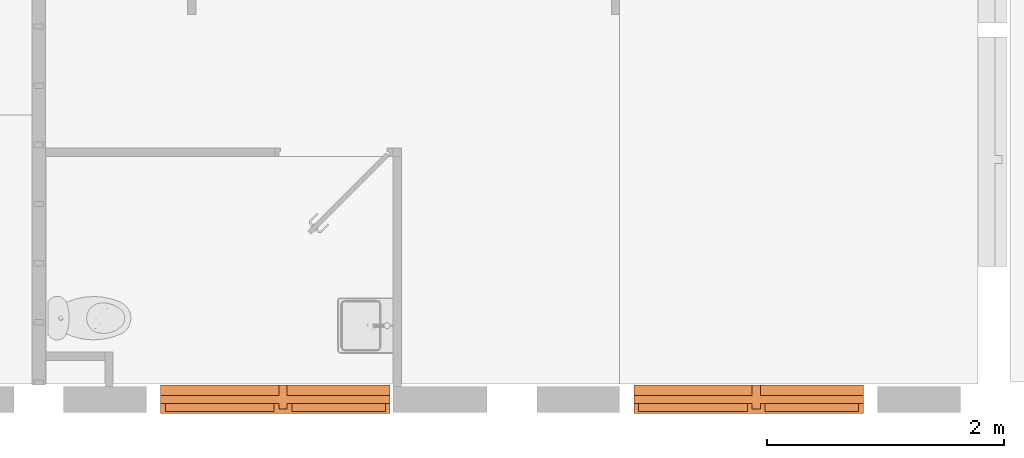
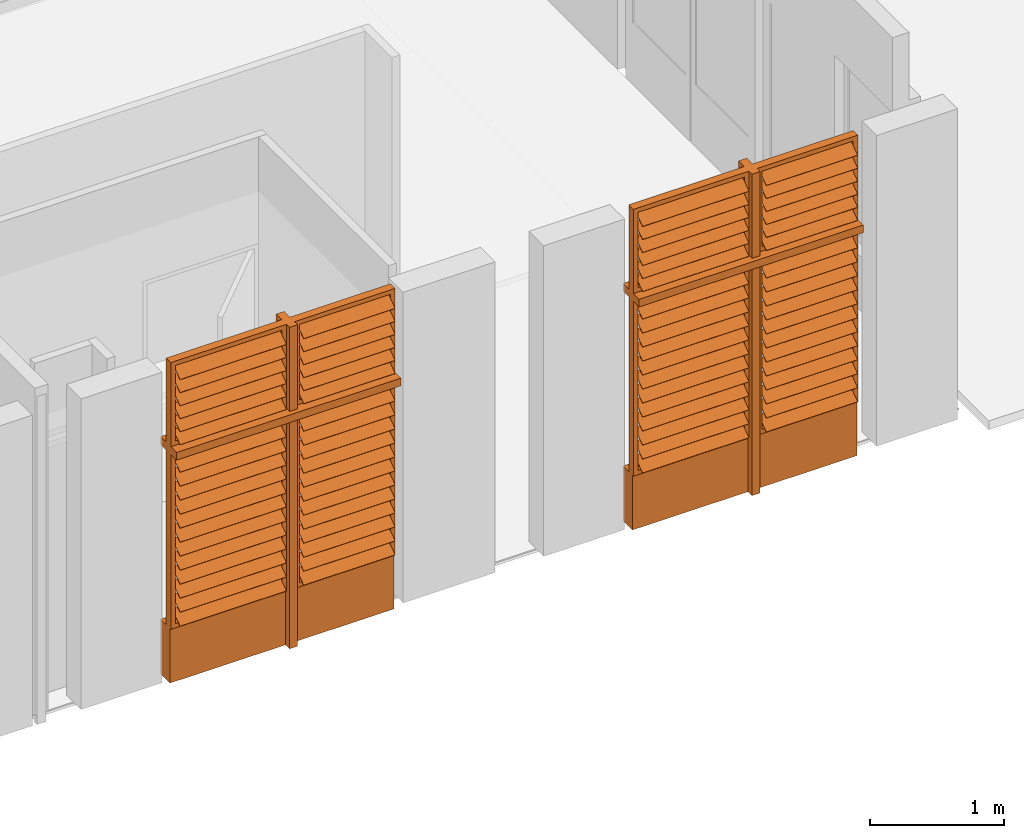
# One storey, part 12 of 15: 2 proxies.
"""IFC2X3 building model written with IfcOpenShell, lengths in metres."""

from ifc_helpers import new_model, entity, si_unit, converted_unit, derived_unit, direction, frame, frame_2d, origin, origin_2d_with_axis, place, context, subcontext, project, spatial, polyline, rectangle, outline, extrude, source, transform, mapped, material, material_list, type_object, type_shapes, element, save


model = new_model("IFC2X3")

# Units and contexts
model_context = context("Model", 3, precision=1e-05, world=origin(), true_north=direction((6.12303176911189e-17, 1.0)))
body_context = subcontext(model_context, "Body", "Model", "MODEL_VIEW")
ifc_project = project(units=[si_unit("LENGTHUNIT", "METRE"), si_unit("AREAUNIT", "SQUARE_METRE"), si_unit("VOLUMEUNIT", "CUBIC_METRE"), converted_unit("PLANEANGLEUNIT", "DEGREE", entity("IfcRatioMeasure", 0.0174532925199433), si_unit("PLANEANGLEUNIT", "RADIAN"), dimensions=[0, 0, 0, 0, 0, 0, 0]), si_unit("MASSUNIT", "GRAM", prefix="KILO"), derived_unit("MASSDENSITYUNIT", [(si_unit("MASSUNIT", "GRAM", prefix="KILO"), 1), (si_unit("LENGTHUNIT", "METRE"), -3)]), si_unit("TIMEUNIT", "SECOND"), si_unit("FREQUENCYUNIT", "HERTZ"), si_unit("THERMODYNAMICTEMPERATUREUNIT", "DEGREE_CELSIUS"), derived_unit("THERMALTRANSMITTANCEUNIT", [(si_unit("MASSUNIT", "GRAM", prefix="KILO"), 1), (si_unit("THERMODYNAMICTEMPERATUREUNIT", "KELVIN"), -1), (si_unit("TIMEUNIT", "SECOND"), -3)]), derived_unit("VOLUMETRICFLOWRATEUNIT", [(si_unit("LENGTHUNIT", "METRE"), 3), (si_unit("TIMEUNIT", "SECOND"), -1)]), si_unit("ELECTRICCURRENTUNIT", "AMPERE"), si_unit("ELECTRICVOLTAGEUNIT", "VOLT"), si_unit("POWERUNIT", "WATT"), si_unit("FORCEUNIT", "NEWTON", prefix="KILO"), si_unit("ILLUMINANCEUNIT", "LUX"), si_unit("LUMINOUSFLUXUNIT", "LUMEN"), si_unit("LUMINOUSINTENSITYUNIT", "CANDELA"), derived_unit("USERDEFINED", [(si_unit("MASSUNIT", "GRAM", prefix="KILO"), -1), (si_unit("LENGTHUNIT", "METRE"), -2), (si_unit("TIMEUNIT", "SECOND"), 3), (si_unit("LUMINOUSFLUXUNIT", "LUMEN"), 1)]), derived_unit("LINEARVELOCITYUNIT", [(si_unit("LENGTHUNIT", "METRE"), 1), (si_unit("TIMEUNIT", "SECOND"), -1)]), si_unit("PRESSUREUNIT", "PASCAL"), derived_unit("USERDEFINED", [(si_unit("LENGTHUNIT", "METRE"), -2), (si_unit("MASSUNIT", "GRAM", prefix="KILO"), 1), (si_unit("TIMEUNIT", "SECOND"), -2)])], contexts=[model_context])

# Site, building, storey
site_placement = place(None, origin())
site = spatial("IfcSite", under=ifc_project, at=site_placement, Name="Surface", CompositionType="ELEMENT")
building_placement = place(site_placement, origin())
building = spatial("IfcBuilding", under=site, at=building_placement, Name="ExPREF", CompositionType="ELEMENT")
storey_placement = place(building_placement, frame((0.0, 0.0, 7.83)))
storey = spatial("IfcBuildingStorey", under=building, at=storey_placement, Name="R+2", CompositionType="ELEMENT", Elevation=7.83)

# Proxies
ifc_material_1 = material(Name="AA-Aluminium")
ifc_material_2 = material(Name="AA-vitrage")
ifc_material_3 = material(Name="AA-bois menuiseries")
ifc_material_list_1 = material_list([ifc_material_1, ifc_material_2, ifc_material_3])
ifc_material_list_2 = material_list([ifc_material_1, ifc_material_2, ifc_material_3])
building_element_proxy_type = type_object("IfcBuildingElementProxyType", Name="R+2 naco + naco", PredefinedType="NOTDEFINED", material=ifc_material_list_2)
shared_shape = source(origin(), body_context, "Body", "SweptSolid", [
    extrude(rectangle(XDim=0.00770243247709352, YDim=0.0205728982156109, at=frame_2d((1.62196645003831e-16, 2.16840434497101e-16), x_axis=(0.0, 1.0))), frame((0.139999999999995, -0.107700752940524, 2.89046018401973), z_axis=(1.0, 0.0, 0.0), x_axis=(0.0, 0.819152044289, 0.573576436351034)), (0.0, 0.0, 1.0), 0.790000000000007),
    extrude(rectangle(XDim=0.00499999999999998, YDim=0.129427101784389, at=origin_2d_with_axis()), frame((0.139999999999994, -0.169165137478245, 2.84748191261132), z_axis=(1.0, 0.0, 0.0), x_axis=(0.0, -0.573576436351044, 0.819152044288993)), (0.0, 0.0, 1.0), 0.790000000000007),
    extrude(rectangle(XDim=0.00770243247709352, YDim=0.0205728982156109, at=frame_2d((1.62196645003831e-16, 2.16840434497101e-16), x_axis=(0.0, 1.0))), frame((-0.930000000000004, -0.107700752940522, 2.89046018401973), z_axis=(1.0, 0.0, 0.0), x_axis=(0.0, 0.819152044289, 0.573576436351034)), (0.0, 0.0, 1.0), 0.920000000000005),
    extrude(rectangle(XDim=0.00499999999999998, YDim=0.129427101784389, at=origin_2d_with_axis()), frame((-0.930000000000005, -0.169165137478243, 2.84748191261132), z_axis=(1.0, 0.0, 0.0), x_axis=(0.0, -0.573576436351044, 0.819152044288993)), (0.0, 0.0, 1.0), 0.920000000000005),
    extrude(rectangle(XDim=0.0077024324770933, YDim=0.0205728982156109, at=frame_2d((1.99493199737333e-17, -1.49619899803e-17), x_axis=(0.0, 1.0))), frame((-0.930000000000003, -0.107700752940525, 2.04446018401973), z_axis=(1.0, 0.0, 0.0), x_axis=(0.0, 0.819152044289, 0.573576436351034)), (0.0, 0.0, 1.0), 0.920000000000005),
    extrude(rectangle(XDim=0.00499999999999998, YDim=0.129427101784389, at=frame_2d((4.11996825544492e-18, 6.93889390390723e-18), x_axis=(1.0, 0.0))), frame((-0.930000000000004, -0.169165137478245, 2.00148191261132), z_axis=(1.0, 0.0, 0.0), x_axis=(0.0, -0.573576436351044, 0.819152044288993)), (0.0, 0.0, 1.0), 0.920000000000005),
    extrude(rectangle(XDim=0.00770243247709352, YDim=0.0205728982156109, at=frame_2d((1.99493199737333e-17, -1.49619899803e-17), x_axis=(0.0, 1.0))), frame((-0.930000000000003, -0.107700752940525, 1.91646018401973), z_axis=(1.0, 0.0, 0.0), x_axis=(0.0, 0.819152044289, 0.573576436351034)), (0.0, 0.0, 1.0), 0.920000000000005),
    extrude(rectangle(XDim=0.00499999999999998, YDim=0.129427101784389, at=frame_2d((4.11996825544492e-18, 6.93889390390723e-18), x_axis=(1.0, 0.0))), frame((-0.930000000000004, -0.169165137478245, 1.87348191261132), z_axis=(1.0, 0.0, 0.0), x_axis=(0.0, -0.573576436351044, 0.819152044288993)), (0.0, 0.0, 1.0), 0.920000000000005),
    extrude(rectangle(XDim=0.00770243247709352, YDim=0.0205728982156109, at=frame_2d((1.99493199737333e-17, -1.49619899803e-17), x_axis=(0.0, 1.0))), frame((-0.930000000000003, -0.107700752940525, 1.78846018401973), z_axis=(1.0, 0.0, 0.0), x_axis=(0.0, 0.819152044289, 0.573576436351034)), (0.0, 0.0, 1.0), 0.920000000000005),
    extrude(rectangle(XDim=0.00499999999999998, YDim=0.129427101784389, at=frame_2d((4.11996825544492e-18, 6.93889390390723e-18), x_axis=(1.0, 0.0))), frame((-0.930000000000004, -0.169165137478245, 1.74548191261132), z_axis=(1.0, 0.0, 0.0), x_axis=(0.0, -0.573576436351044, 0.819152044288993)), (0.0, 0.0, 1.0), 0.920000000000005),
    extrude(rectangle(XDim=0.00770243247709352, YDim=0.0205728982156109, at=frame_2d((1.99493199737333e-17, -1.49619899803e-17), x_axis=(0.0, 1.0))), frame((-0.930000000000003, -0.107700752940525, 1.66046018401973), z_axis=(1.0, 0.0, 0.0), x_axis=(0.0, 0.819152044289, 0.573576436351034)), (0.0, 0.0, 1.0), 0.920000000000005),
    extrude(rectangle(XDim=0.00499999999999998, YDim=0.129427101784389, at=frame_2d((4.11996825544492e-18, 6.93889390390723e-18), x_axis=(1.0, 0.0))), frame((-0.930000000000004, -0.169165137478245, 1.61748191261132), z_axis=(1.0, 0.0, 0.0), x_axis=(0.0, -0.573576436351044, 0.819152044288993)), (0.0, 0.0, 1.0), 0.920000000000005),
    extrude(rectangle(XDim=0.00770243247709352, YDim=0.0205728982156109, at=frame_2d((1.99493199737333e-17, -1.49619899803e-17), x_axis=(0.0, 1.0))), frame((-0.930000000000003, -0.107700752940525, 1.53246018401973), z_axis=(1.0, 0.0, 0.0), x_axis=(0.0, 0.819152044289, 0.573576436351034)), (0.0, 0.0, 1.0), 0.920000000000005),
    extrude(rectangle(XDim=0.00499999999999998, YDim=0.129427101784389, at=frame_2d((4.11996825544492e-18, 6.93889390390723e-18), x_axis=(1.0, 0.0))), frame((-0.930000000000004, -0.169165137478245, 1.48948191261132), z_axis=(1.0, 0.0, 0.0), x_axis=(0.0, -0.573576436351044, 0.819152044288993)), (0.0, 0.0, 1.0), 0.920000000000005),
    extrude(rectangle(XDim=0.00770243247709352, YDim=0.0205728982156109, at=frame_2d((1.99493199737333e-17, -1.49619899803e-17), x_axis=(0.0, 1.0))), frame((-0.930000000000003, -0.107700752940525, 1.40446018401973), z_axis=(1.0, 0.0, 0.0), x_axis=(0.0, 0.819152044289, 0.573576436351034)), (0.0, 0.0, 1.0), 0.920000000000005),
    extrude(rectangle(XDim=0.00499999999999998, YDim=0.129427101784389, at=frame_2d((4.11996825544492e-18, 6.93889390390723e-18), x_axis=(1.0, 0.0))), frame((-0.930000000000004, -0.169165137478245, 1.36148191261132), z_axis=(1.0, 0.0, 0.0), x_axis=(0.0, -0.573576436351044, 0.819152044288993)), (0.0, 0.0, 1.0), 0.920000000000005),
    extrude(rectangle(XDim=0.00770243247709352, YDim=0.0205728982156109, at=frame_2d((1.99493199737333e-17, -1.49619899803e-17), x_axis=(0.0, 1.0))), frame((-0.930000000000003, -0.107700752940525, 1.27646018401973), z_axis=(1.0, 0.0, 0.0), x_axis=(0.0, 0.819152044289, 0.573576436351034)), (0.0, 0.0, 1.0), 0.920000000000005),
    extrude(rectangle(XDim=0.00499999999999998, YDim=0.129427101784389, at=frame_2d((4.11996825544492e-18, 6.93889390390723e-18), x_axis=(1.0, 0.0))), frame((-0.930000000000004, -0.169165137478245, 1.23348191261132), z_axis=(1.0, 0.0, 0.0), x_axis=(0.0, -0.573576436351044, 0.819152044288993)), (0.0, 0.0, 1.0), 0.920000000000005),
    extrude(rectangle(XDim=0.00770243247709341, YDim=0.020572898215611, at=frame_2d((-1.82145964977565e-17, -7.02563007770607e-17), x_axis=(0.0, 1.0))), frame((-0.930000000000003, -0.107700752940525, 1.14846018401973), z_axis=(1.0, 0.0, 0.0), x_axis=(0.0, 0.819152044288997, 0.573576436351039)), (0.0, 0.0, 1.0), 0.920000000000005),
    extrude(rectangle(XDim=0.0050000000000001, YDim=0.129427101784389, at=frame_2d((4.33680868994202e-18, 6.93889390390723e-18), x_axis=(1.0, 0.0))), frame((-0.930000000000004, -0.169165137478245, 1.10548191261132), z_axis=(1.0, 0.0, 0.0), x_axis=(0.0, -0.573576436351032, 0.819152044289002)), (0.0, 0.0, 1.0), 0.920000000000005),
    extrude(rectangle(XDim=0.00770243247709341, YDim=0.020572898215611, at=frame_2d((-1.82145964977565e-17, -7.02563007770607e-17), x_axis=(0.0, 1.0))), frame((-0.930000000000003, -0.107700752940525, 1.02046018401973), z_axis=(1.0, 0.0, 0.0), x_axis=(0.0, 0.819152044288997, 0.573576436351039)), (0.0, 0.0, 1.0), 0.920000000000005),
    extrude(rectangle(XDim=0.0050000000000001, YDim=0.129427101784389, at=frame_2d((4.33680868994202e-18, 6.93889390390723e-18), x_axis=(1.0, 0.0))), frame((-0.930000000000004, -0.169165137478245, 0.977481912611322), z_axis=(1.0, 0.0, 0.0), x_axis=(0.0, -0.573576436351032, 0.819152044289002)), (0.0, 0.0, 1.0), 0.920000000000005),
    extrude(rectangle(XDim=0.00770243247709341, YDim=0.020572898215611, at=frame_2d((-1.82145964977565e-17, -7.02563007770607e-17), x_axis=(0.0, 1.0))), frame((-0.930000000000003, -0.107700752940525, 0.892460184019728), z_axis=(1.0, 0.0, 0.0), x_axis=(0.0, 0.819152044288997, 0.573576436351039)), (0.0, 0.0, 1.0), 0.920000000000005),
    extrude(rectangle(XDim=0.0050000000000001, YDim=0.129427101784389, at=frame_2d((4.33680868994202e-18, 6.93889390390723e-18), x_axis=(1.0, 0.0))), frame((-0.930000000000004, -0.169165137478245, 0.849481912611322), z_axis=(1.0, 0.0, 0.0), x_axis=(0.0, -0.573576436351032, 0.819152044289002)), (0.0, 0.0, 1.0), 0.920000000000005),
    extrude(rectangle(XDim=0.00770243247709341, YDim=0.020572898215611, at=frame_2d((-1.82145964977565e-17, -7.02563007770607e-17), x_axis=(0.0, 1.0))), frame((-0.930000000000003, -0.107700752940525, 0.764460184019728), z_axis=(1.0, 0.0, 0.0), x_axis=(0.0, 0.819152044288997, 0.573576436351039)), (0.0, 0.0, 1.0), 0.920000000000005),
    extrude(rectangle(XDim=0.0050000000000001, YDim=0.129427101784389, at=frame_2d((4.33680868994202e-18, 6.93889390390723e-18), x_axis=(1.0, 0.0))), frame((-0.930000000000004, -0.169165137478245, 0.721481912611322), z_axis=(1.0, 0.0, 0.0), x_axis=(0.0, -0.573576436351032, 0.819152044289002)), (0.0, 0.0, 1.0), 0.920000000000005),
    extrude(rectangle(XDim=0.00770243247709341, YDim=0.020572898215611, at=frame_2d((-1.82145964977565e-17, -7.02563007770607e-17), x_axis=(0.0, 1.0))), frame((-0.930000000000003, -0.107700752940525, 0.636460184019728), z_axis=(1.0, 0.0, 0.0), x_axis=(0.0, 0.819152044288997, 0.573576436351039)), (0.0, 0.0, 1.0), 0.920000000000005),
    extrude(rectangle(XDim=0.0050000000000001, YDim=0.129427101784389, at=frame_2d((4.33680868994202e-18, 6.93889390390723e-18), x_axis=(1.0, 0.0))), frame((-0.930000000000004, -0.169165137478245, 0.593481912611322), z_axis=(1.0, 0.0, 0.0), x_axis=(0.0, -0.573576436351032, 0.819152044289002)), (0.0, 0.0, 1.0), 0.920000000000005),
    extrude(rectangle(XDim=0.00770243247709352, YDim=0.0205728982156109, at=frame_2d((6.93889390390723e-18, -4.77048955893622e-18), x_axis=(0.0, 1.0))), frame((0.139999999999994, -0.107700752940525, 2.04446018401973), z_axis=(1.0, 0.0, 0.0), x_axis=(0.0, 0.819152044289, 0.573576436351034)), (0.0, 0.0, 1.0), 0.790000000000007),
    extrude(rectangle(XDim=0.00499999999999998, YDim=0.129427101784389, at=origin_2d_with_axis()), frame((0.139999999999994, -0.169165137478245, 2.00148191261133), z_axis=(1.0, 0.0, 0.0), x_axis=(0.0, -0.573576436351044, 0.819152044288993)), (0.0, 0.0, 1.0), 0.790000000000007),
    extrude(rectangle(XDim=0.0077024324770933, YDim=0.0205728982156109, at=frame_2d((6.93889390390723e-18, -4.77048955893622e-18), x_axis=(0.0, 1.0))), frame((0.139999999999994, -0.107700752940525, 1.91646018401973), z_axis=(1.0, 0.0, 0.0), x_axis=(0.0, 0.819152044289, 0.573576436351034)), (0.0, 0.0, 1.0), 0.790000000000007),
    extrude(rectangle(XDim=0.00499999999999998, YDim=0.129427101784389, at=origin_2d_with_axis()), frame((0.139999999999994, -0.169165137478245, 1.87348191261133), z_axis=(1.0, 0.0, 0.0), x_axis=(0.0, -0.573576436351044, 0.819152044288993)), (0.0, 0.0, 1.0), 0.790000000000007),
    extrude(rectangle(XDim=0.0077024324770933, YDim=0.0205728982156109, at=frame_2d((6.93889390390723e-18, -4.77048955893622e-18), x_axis=(0.0, 1.0))), frame((0.139999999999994, -0.107700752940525, 1.78846018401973), z_axis=(1.0, 0.0, 0.0), x_axis=(0.0, 0.819152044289, 0.573576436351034)), (0.0, 0.0, 1.0), 0.790000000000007),
    extrude(rectangle(XDim=0.00499999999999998, YDim=0.129427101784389, at=origin_2d_with_axis()), frame((0.139999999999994, -0.169165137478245, 1.74548191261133), z_axis=(1.0, 0.0, 0.0), x_axis=(0.0, -0.573576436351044, 0.819152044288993)), (0.0, 0.0, 1.0), 0.790000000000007),
    extrude(rectangle(XDim=0.0077024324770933, YDim=0.0205728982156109, at=frame_2d((6.93889390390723e-18, -4.77048955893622e-18), x_axis=(0.0, 1.0))), frame((0.139999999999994, -0.107700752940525, 1.66046018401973), z_axis=(1.0, 0.0, 0.0), x_axis=(0.0, 0.819152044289, 0.573576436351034)), (0.0, 0.0, 1.0), 0.790000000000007),
    extrude(rectangle(XDim=0.00499999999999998, YDim=0.129427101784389, at=origin_2d_with_axis()), frame((0.139999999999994, -0.169165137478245, 1.61748191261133), z_axis=(1.0, 0.0, 0.0), x_axis=(0.0, -0.573576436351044, 0.819152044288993)), (0.0, 0.0, 1.0), 0.790000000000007),
    extrude(rectangle(XDim=0.0077024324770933, YDim=0.0205728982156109, at=frame_2d((6.93889390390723e-18, -4.77048955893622e-18), x_axis=(0.0, 1.0))), frame((0.139999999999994, -0.107700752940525, 1.53246018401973), z_axis=(1.0, 0.0, 0.0), x_axis=(0.0, 0.819152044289, 0.573576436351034)), (0.0, 0.0, 1.0), 0.790000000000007),
    extrude(rectangle(XDim=0.00499999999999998, YDim=0.129427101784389, at=origin_2d_with_axis()), frame((0.139999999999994, -0.169165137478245, 1.48948191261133), z_axis=(1.0, 0.0, 0.0), x_axis=(0.0, -0.573576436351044, 0.819152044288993)), (0.0, 0.0, 1.0), 0.790000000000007),
    extrude(rectangle(XDim=0.0077024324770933, YDim=0.0205728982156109, at=frame_2d((6.93889390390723e-18, -4.77048955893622e-18), x_axis=(0.0, 1.0))), frame((0.139999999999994, -0.107700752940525, 1.40446018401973), z_axis=(1.0, 0.0, 0.0), x_axis=(0.0, 0.819152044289, 0.573576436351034)), (0.0, 0.0, 1.0), 0.790000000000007),
    extrude(rectangle(XDim=0.00499999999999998, YDim=0.129427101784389, at=origin_2d_with_axis()), frame((0.139999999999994, -0.169165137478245, 1.36148191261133), z_axis=(1.0, 0.0, 0.0), x_axis=(0.0, -0.573576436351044, 0.819152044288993)), (0.0, 0.0, 1.0), 0.790000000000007),
    extrude(rectangle(XDim=0.0077024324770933, YDim=0.0205728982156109, at=frame_2d((6.93889390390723e-18, -4.77048955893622e-18), x_axis=(0.0, 1.0))), frame((0.139999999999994, -0.107700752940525, 1.27646018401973), z_axis=(1.0, 0.0, 0.0), x_axis=(0.0, 0.819152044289, 0.573576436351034)), (0.0, 0.0, 1.0), 0.790000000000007),
    extrude(rectangle(XDim=0.00499999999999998, YDim=0.129427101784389, at=origin_2d_with_axis()), frame((0.139999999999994, -0.169165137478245, 1.23348191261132), z_axis=(1.0, 0.0, 0.0), x_axis=(0.0, -0.573576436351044, 0.819152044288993)), (0.0, 0.0, 1.0), 0.790000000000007),
    extrude(rectangle(XDim=0.00770243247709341, YDim=0.020572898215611, at=frame_2d((4.68375338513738e-17, 5.07406616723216e-17), x_axis=(0.0, 1.0))), frame((0.139999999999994, -0.107700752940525, 1.14846018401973), z_axis=(1.0, 0.0, 0.0), x_axis=(0.0, 0.819152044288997, 0.573576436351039)), (0.0, 0.0, 1.0), 0.790000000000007),
    extrude(rectangle(XDim=0.00500000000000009, YDim=0.129427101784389, at=origin_2d_with_axis()), frame((0.139999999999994, -0.169165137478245, 1.10548191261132), z_axis=(1.0, 0.0, 0.0), x_axis=(0.0, -0.573576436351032, 0.819152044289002)), (0.0, 0.0, 1.0), 0.790000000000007),
    extrude(rectangle(XDim=0.00770243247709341, YDim=0.020572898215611, at=frame_2d((4.68375338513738e-17, 5.07406616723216e-17), x_axis=(0.0, 1.0))), frame((0.139999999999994, -0.107700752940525, 1.02046018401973), z_axis=(1.0, 0.0, 0.0), x_axis=(0.0, 0.819152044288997, 0.573576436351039)), (0.0, 0.0, 1.0), 0.790000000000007),
    extrude(rectangle(XDim=0.00500000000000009, YDim=0.129427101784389, at=origin_2d_with_axis()), frame((0.139999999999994, -0.169165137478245, 0.977481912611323), z_axis=(1.0, 0.0, 0.0), x_axis=(0.0, -0.573576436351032, 0.819152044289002)), (0.0, 0.0, 1.0), 0.790000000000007),
    extrude(rectangle(XDim=0.00770243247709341, YDim=0.020572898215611, at=frame_2d((4.68375338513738e-17, 5.07406616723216e-17), x_axis=(0.0, 1.0))), frame((0.139999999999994, -0.107700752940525, 0.892460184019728), z_axis=(1.0, 0.0, 0.0), x_axis=(0.0, 0.819152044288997, 0.573576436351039)), (0.0, 0.0, 1.0), 0.790000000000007),
    extrude(rectangle(XDim=0.00500000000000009, YDim=0.129427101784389, at=origin_2d_with_axis()), frame((0.139999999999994, -0.169165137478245, 0.849481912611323), z_axis=(1.0, 0.0, 0.0), x_axis=(0.0, -0.573576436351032, 0.819152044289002)), (0.0, 0.0, 1.0), 0.790000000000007),
    extrude(rectangle(XDim=0.00770243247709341, YDim=0.020572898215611, at=frame_2d((-3.29597460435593e-17, -6.0281640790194e-17), x_axis=(0.0, 1.0))), frame((0.139999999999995, -0.107700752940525, 0.764460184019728), z_axis=(1.0, 0.0, 0.0), x_axis=(0.0, 0.819152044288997, 0.573576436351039)), (0.0, 0.0, 1.0), 0.790000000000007),
    extrude(rectangle(XDim=0.00500000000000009, YDim=0.129427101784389, at=origin_2d_with_axis()), frame((0.139999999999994, -0.169165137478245, 0.721481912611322), z_axis=(1.0, 0.0, 0.0), x_axis=(0.0, -0.573576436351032, 0.819152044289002)), (0.0, 0.0, 1.0), 0.790000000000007),
    extrude(rectangle(XDim=0.00770243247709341, YDim=0.020572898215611, at=frame_2d((-3.29597460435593e-17, -6.0281640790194e-17), x_axis=(0.0, 1.0))), frame((0.139999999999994, -0.107700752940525, 0.636460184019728), z_axis=(1.0, 0.0, 0.0), x_axis=(0.0, 0.819152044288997, 0.573576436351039)), (0.0, 0.0, 1.0), 0.790000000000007),
    extrude(rectangle(XDim=0.00500000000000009, YDim=0.129427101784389, at=origin_2d_with_axis()), frame((0.139999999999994, -0.169165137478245, 0.593481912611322), z_axis=(1.0, 0.0, 0.0), x_axis=(0.0, -0.573576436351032, 0.819152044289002)), (0.0, 0.0, 1.0), 0.790000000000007),
    extrude(rectangle(XDim=0.00770243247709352, YDim=0.0205728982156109, at=frame_2d((1.62196645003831e-16, 2.16840434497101e-16), x_axis=(0.0, 1.0))), frame((0.139999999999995, -0.107700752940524, 2.77146018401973), z_axis=(1.0, 0.0, 0.0), x_axis=(0.0, 0.819152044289, 0.573576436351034)), (0.0, 0.0, 1.0), 0.790000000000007),
    extrude(rectangle(XDim=0.00499999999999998, YDim=0.129427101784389, at=origin_2d_with_axis()), frame((0.139999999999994, -0.169165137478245, 2.72848191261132), z_axis=(1.0, 0.0, 0.0), x_axis=(0.0, -0.573576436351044, 0.819152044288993)), (0.0, 0.0, 1.0), 0.790000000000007),
    extrude(rectangle(XDim=0.00770243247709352, YDim=0.0205728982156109, at=frame_2d((1.62196645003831e-16, 2.16840434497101e-16), x_axis=(0.0, 1.0))), frame((-0.930000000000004, -0.107700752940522, 2.77146018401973), z_axis=(1.0, 0.0, 0.0), x_axis=(0.0, 0.819152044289, 0.573576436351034)), (0.0, 0.0, 1.0), 0.920000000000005),
    extrude(rectangle(XDim=0.00499999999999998, YDim=0.129427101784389, at=origin_2d_with_axis()), frame((-0.930000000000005, -0.169165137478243, 2.72848191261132), z_axis=(1.0, 0.0, 0.0), x_axis=(0.0, -0.573576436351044, 0.819152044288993)), (0.0, 0.0, 1.0), 0.920000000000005),
    extrude(rectangle(XDim=0.00770243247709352, YDim=0.0205728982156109, at=frame_2d((1.62196645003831e-16, 2.16840434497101e-16), x_axis=(0.0, 1.0))), frame((-0.930000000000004, -0.107700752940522, 2.65246018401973), z_axis=(1.0, 0.0, 0.0), x_axis=(0.0, 0.819152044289, 0.573576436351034)), (0.0, 0.0, 1.0), 0.920000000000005),
    extrude(rectangle(XDim=0.00499999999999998, YDim=0.129427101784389, at=origin_2d_with_axis()), frame((-0.930000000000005, -0.169165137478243, 2.60948191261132), z_axis=(1.0, 0.0, 0.0), x_axis=(0.0, -0.573576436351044, 0.819152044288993)), (0.0, 0.0, 1.0), 0.920000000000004),
    extrude(rectangle(XDim=0.00770243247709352, YDim=0.0205728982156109, at=frame_2d((1.62196645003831e-16, 2.16840434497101e-16), x_axis=(0.0, 1.0))), frame((-0.930000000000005, -0.107700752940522, 2.53346018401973), z_axis=(1.0, 0.0, 0.0), x_axis=(0.0, 0.819152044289, 0.573576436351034)), (0.0, 0.0, 1.0), 0.920000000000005),
    extrude(rectangle(XDim=0.00499999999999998, YDim=0.129427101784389, at=origin_2d_with_axis()), frame((-0.930000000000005, -0.169165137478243, 2.49048191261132), z_axis=(1.0, 0.0, 0.0), x_axis=(0.0, -0.573576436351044, 0.819152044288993)), (0.0, 0.0, 1.0), 0.920000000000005),
    extrude(rectangle(XDim=0.00770243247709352, YDim=0.0205728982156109, at=frame_2d((1.62196645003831e-16, 2.16840434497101e-16), x_axis=(0.0, 1.0))), frame((0.139999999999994, -0.107700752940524, 2.65246018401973), z_axis=(1.0, 0.0, 0.0), x_axis=(0.0, 0.819152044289, 0.573576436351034)), (0.0, 0.0, 1.0), 0.790000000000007),
    extrude(rectangle(XDim=0.00499999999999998, YDim=0.129427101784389, at=origin_2d_with_axis()), frame((0.139999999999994, -0.169165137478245, 2.60948191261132), z_axis=(1.0, 0.0, 0.0), x_axis=(0.0, -0.573576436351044, 0.819152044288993)), (0.0, 0.0, 1.0), 0.790000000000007),
    extrude(rectangle(XDim=0.00770243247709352, YDim=0.0205728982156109, at=frame_2d((-1.48318857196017e-16, -2.26381413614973e-16), x_axis=(0.0, 1.0))), frame((0.139999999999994, -0.107700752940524, 2.53346018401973), z_axis=(1.0, 0.0, 0.0), x_axis=(0.0, 0.819152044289, 0.573576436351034)), (0.0, 0.0, 1.0), 0.790000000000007),
    extrude(rectangle(XDim=0.00499999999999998, YDim=0.129427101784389, at=frame_2d((4.44089209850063e-16, -3.12250225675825e-16), x_axis=(1.0, 0.0))), frame((0.139999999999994, -0.169165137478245, 2.49048191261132), z_axis=(1.0, 0.0, 0.0), x_axis=(0.0, -0.573576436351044, 0.819152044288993)), (0.0, 0.0, 1.0), 0.790000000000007),
    extrude(rectangle(XDim=0.0077024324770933, YDim=0.0205728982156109, at=frame_2d((6.93889390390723e-18, -4.77048955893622e-18), x_axis=(0.0, 1.0))), frame((0.139999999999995, -0.107700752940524, 2.41446018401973), z_axis=(1.0, 0.0, 0.0), x_axis=(0.0, 0.819152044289, 0.573576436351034)), (0.0, 0.0, 1.0), 0.790000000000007),
    extrude(rectangle(XDim=0.00499999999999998, YDim=0.129427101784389, at=origin_2d_with_axis()), frame((0.139999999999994, -0.169165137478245, 2.37148191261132), z_axis=(1.0, 0.0, 0.0), x_axis=(0.0, -0.573576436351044, 0.819152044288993)), (0.0, 0.0, 1.0), 0.790000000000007),
    extrude(rectangle(XDim=0.00770243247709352, YDim=0.0205728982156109, at=frame_2d((-1.48318857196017e-16, -2.26381413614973e-16), x_axis=(0.0, 1.0))), frame((0.139999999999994, -0.107700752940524, 2.29546018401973), z_axis=(1.0, 0.0, 0.0), x_axis=(0.0, 0.819152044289, 0.573576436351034)), (0.0, 0.0, 1.0), 0.790000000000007),
    extrude(rectangle(XDim=0.00499999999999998, YDim=0.129427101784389, at=origin_2d_with_axis()), frame((0.139999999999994, -0.169165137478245, 2.25248191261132), z_axis=(1.0, 0.0, 0.0), x_axis=(0.0, -0.573576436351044, 0.819152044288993)), (0.0, 0.0, 1.0), 0.790000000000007),
    extrude(rectangle(XDim=0.00770243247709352, YDim=0.0205728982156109, at=frame_2d((6.93889390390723e-18, -4.77048955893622e-18), x_axis=(0.0, 1.0))), frame((-0.930000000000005, -0.107700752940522, 2.41446018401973), z_axis=(1.0, 0.0, 0.0), x_axis=(0.0, 0.819152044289, 0.573576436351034)), (0.0, 0.0, 1.0), 0.920000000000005),
    extrude(rectangle(XDim=0.00499999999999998, YDim=0.129427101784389, at=origin_2d_with_axis()), frame((-0.930000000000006, -0.169165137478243, 2.37148191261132), z_axis=(1.0, 0.0, 0.0), x_axis=(0.0, -0.573576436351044, 0.819152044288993)), (0.0, 0.0, 1.0), 0.920000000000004),
    extrude(rectangle(XDim=0.00770243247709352, YDim=0.0205728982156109, at=frame_2d((6.93889390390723e-18, -4.77048955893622e-18), x_axis=(0.0, 1.0))), frame((-0.930000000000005, -0.107700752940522, 2.29546018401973), z_axis=(1.0, 0.0, 0.0), x_axis=(0.0, 0.819152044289, 0.573576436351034)), (0.0, 0.0, 1.0), 0.920000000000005),
    extrude(rectangle(XDim=0.00499999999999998, YDim=0.129427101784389, at=origin_2d_with_axis()), frame((-0.930000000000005, -0.169165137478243, 2.25248191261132), z_axis=(1.0, 0.0, 0.0), x_axis=(0.0, -0.573576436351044, 0.819152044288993)), (0.0, 0.0, 1.0), 0.920000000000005),
    extrude(outline(polyline([(-0.500000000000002, -0.799999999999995), (0.500000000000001, -0.799999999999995), (0.500000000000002, 0.799999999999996), (-0.500000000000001, 0.799999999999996), (-0.500000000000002, -0.799999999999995)]), holes=[polyline([(-0.460000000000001, -0.759999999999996), (-0.460000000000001, 0.759999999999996), (0.460000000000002, 0.759999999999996), (0.460000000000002, -0.759999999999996), (-0.460000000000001, -0.759999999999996)])]), frame((-0.470000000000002, -0.155, 1.3), z_axis=(0.0, 1.0, 0.0), x_axis=(-1.0, 0.0, 0.0)), (0.0, 0.0, 1.0), 0.069999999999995),
    extrude(rectangle(XDim=0.140000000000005, YDim=1.0, at=origin_2d_with_axis()), frame((-0.470000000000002, -0.0700000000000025, 0.0), z_axis=(0.0, 0.0, 1.0), x_axis=(0.0, 1.0, 0.0)), (0.0, 0.0, 1.0), 0.500000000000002),
    extrude(outline(polyline([(-0.435000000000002, -0.799999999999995), (0.435000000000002, -0.799999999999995), (0.435000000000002, 0.799999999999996), (-0.435000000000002, 0.799999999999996), (-0.435000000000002, -0.799999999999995)]), holes=[polyline([(-0.395000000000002, -0.759999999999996), (-0.395000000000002, 0.759999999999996), (0.395000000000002, 0.759999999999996), (0.395000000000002, -0.759999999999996), (-0.395000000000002, -0.759999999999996)])]), frame((0.534999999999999, -0.155, 1.3), z_axis=(0.0, 1.0, 0.0), x_axis=(-1.0, 0.0, 0.0)), (0.0, 0.0, 1.0), 0.069999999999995),
    extrude(outline(polyline([(-0.38500000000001, -0.5), (0.38500000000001, -0.5), (0.38500000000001, 0.5), (-0.38500000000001, 0.5), (-0.38500000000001, -0.5)]), holes=[polyline([(-0.34500000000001, -0.46), (-0.34500000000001, 0.46), (0.345000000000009, 0.46), (0.345000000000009, -0.46), (-0.34500000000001, -0.46)])]), frame((-0.47, -0.155, 2.55500000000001), z_axis=(0.0, 1.0, 0.0), x_axis=(0.0, 0.0, 1.0)), (0.0, 0.0, 1.0), 0.069999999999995),
    extrude(outline(polyline([(-0.38500000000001, -0.435000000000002), (0.38500000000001, -0.435000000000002), (0.38500000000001, 0.435000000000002), (-0.38500000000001, 0.435000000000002), (-0.38500000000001, -0.435000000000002)]), holes=[polyline([(-0.34500000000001, -0.395000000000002), (-0.34500000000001, 0.395000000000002), (0.34500000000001, 0.395000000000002), (0.34500000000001, -0.395000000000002), (-0.34500000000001, -0.395000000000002)])]), frame((0.534999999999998, -0.155, 2.555), z_axis=(0.0, 1.0, 0.0), x_axis=(0.0, 0.0, 1.0)), (0.0, 0.0, 1.0), 0.069999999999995),
    extrude(rectangle(XDim=0.2, YDim=0.0699999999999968, at=origin_2d_with_axis()), frame((0.0649999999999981, -0.1, 2.17), z_axis=(0.0, 0.0, 1.0), x_axis=(0.0, 1.0, 0.0)), (0.0, 0.0, 1.0), 0.770000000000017),
    extrude(rectangle(XDim=0.2, YDim=0.0699999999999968, at=origin_2d_with_axis()), frame((0.0649999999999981, -0.1, 0.0), z_axis=(0.0, 0.0, 1.0), x_axis=(0.0, 1.0, 0.0)), (0.0, 0.0, 1.0), 2.1),
    extrude(rectangle(XDim=0.140000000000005, YDim=0.870000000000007, at=origin_2d_with_axis()), frame((0.535, -0.0700000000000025, 0.0), z_axis=(0.0, 0.0, 1.0), x_axis=(0.0, 1.0, 0.0)), (0.0, 0.0, 1.0), 0.500000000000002),
    extrude(rectangle(XDim=0.24, YDim=1.94, at=origin_2d_with_axis()), frame((0.0, -0.12, 2.1), z_axis=(0.0, 0.0, 1.0), x_axis=(0.0, 1.0, 0.0)), (0.0, 0.0, 1.0), 0.0700000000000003),
])
type_shapes(building_element_proxy_type, [shared_shape])
proxy_1_placement = place(storey_placement, frame((59.4897436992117, -193.239651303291, 0.0)))
element("IfcBuildingElementProxy", 1, at=proxy_1_placement, inside=storey, type_object=building_element_proxy_type, material=ifc_material_list_1, Name="R+2 naco + naco:R+2 naco + naco", ObjectType="R+2 naco + naco", context=body_context, shape_type="MappedRepresentation", body=[
    mapped(shared_shape, transform((0.0, 0.0, 0.0), scale=1.0)),
])
ifc_material_list_3 = material_list([ifc_material_1, ifc_material_2, ifc_material_3])
proxy_2_placement = place(storey_placement, frame((63.4897436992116, -193.239651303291, 0.0)))
element("IfcBuildingElementProxy", 2, at=proxy_2_placement, inside=storey, type_object=building_element_proxy_type, material=ifc_material_list_3, Name="R+2 naco + naco:R+2 naco + naco", ObjectType="R+2 naco + naco", context=body_context, shape_type="MappedRepresentation", body=[
    mapped(shared_shape, transform((0.0, 0.0, 0.0), scale=1.0)),
])

save(model, "model.ifc")
